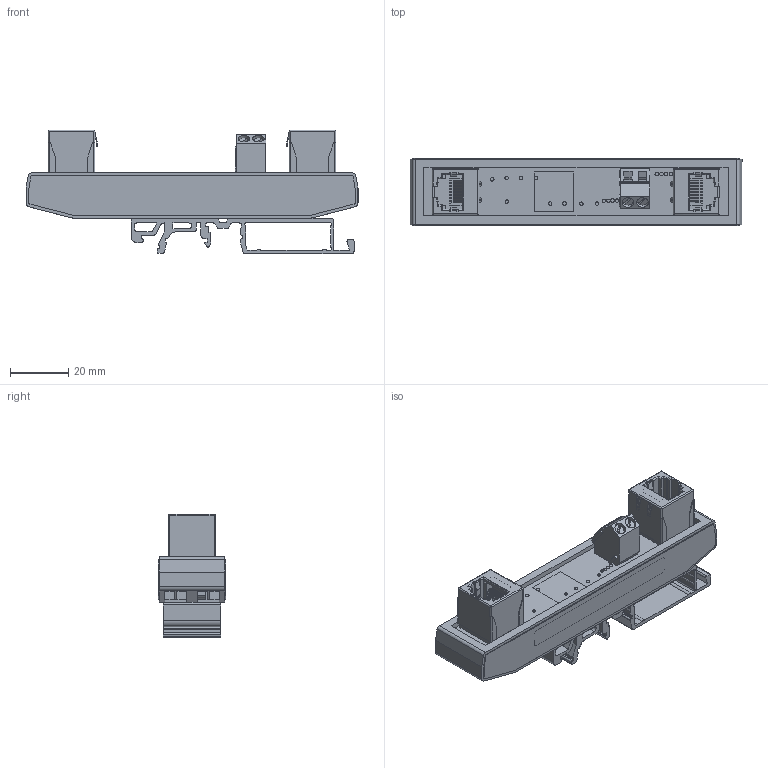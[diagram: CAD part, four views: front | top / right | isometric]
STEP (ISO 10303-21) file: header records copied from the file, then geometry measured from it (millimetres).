
FILE_DESCRIPTION(/* description */ (''),/* implementation_level */ '2;1');
FILE_NAME(/* name */ 'D:\WorkIMT\Project IMT\Флокс-ETH\v1\FLOX-ETH 3D.stp',/* time_stamp */ '2024-02-08T14:58:50+03:00',/* author */ ('Admin'),/* organization */ (''),/* preprocessor_version */ 'ST-DEVELOPER v17.2',/* originating_system */ 'Autodesk Inventor 2019',/* authorisation */ '');
FILE_SCHEMA (('AUTOMOTIVE_DESIGN { 1 0 10303 214 3 1 1 }'));
Products named in the file (1): FLOX-ETH 3D
Bounding box: 114.2 x 23.1 x 42.51 mm (x, y, z)
Volume: 31619 mm3; surface area: 46613.8 mm2
Topology: 1 solids, 18 shells, 1867 faces, 5467 edges, 3600 vertices
Faces by surface type: plane 1367, cylinder 440, cone 60
Full cylindrical faces by diameter (mm): 1 x16, 1.2 x34, 1.5 x32, 1.6 x2, 1.7 x4, 2.1 x2, 2.2 x2, 2.3 x4, 2.4 x1, 2.55 x8, 3.2 x12, 3.25 x4, 3.34 x4, 3.5 x8, 3.99 x2, 4 x2, 4.1 x2, 4.4 x4
Entity records: 63569 total; most frequent: CARTESIAN_POINT 11091, ORIENTED_EDGE 10934, DIRECTION 10231, EDGE_CURVE 5467, LINE 4367, VECTOR 4367, VERTEX_POINT 3600, AXIS2_PLACEMENT_3D 2932
